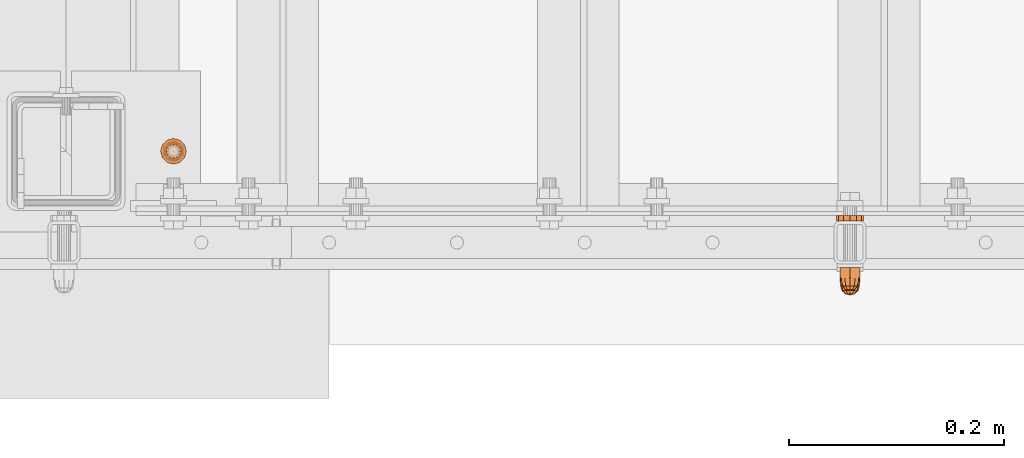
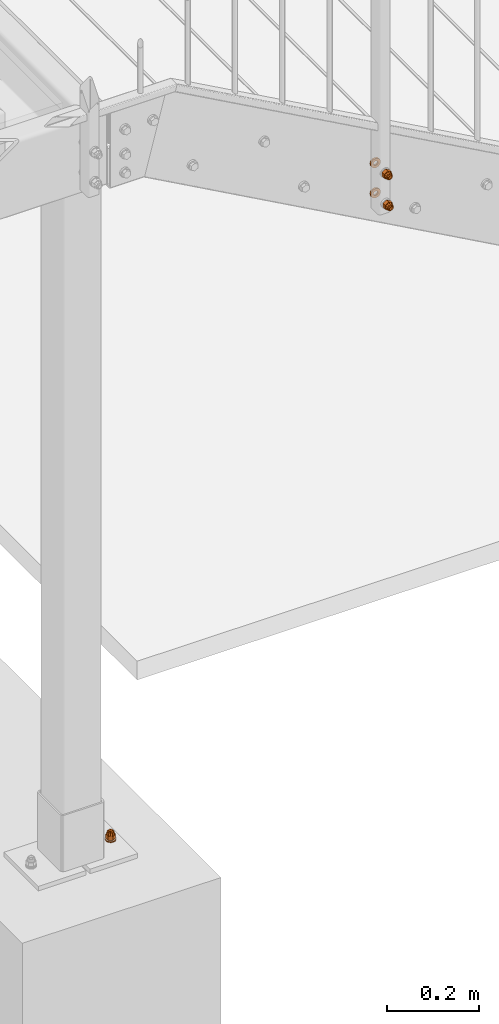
# One storey, part 103 of 116: 6 proxies.
"""IFC2X3 building model written with IfcOpenShell, lengths in millimetres."""

import ifcopenshell
import ifcopenshell.guid

model = None  # the IFC model being written
_history = None  # IfcOwnerHistory: only IFC2X3 demands one
_inside = {}  # id of a spatial element -> (the spatial element, [elements in it])
_under = {}  # id of a project, library or spatial element -> (it, [spatial elements below it])
_declared = {}  # id of a project -> (the project, [libraries it declares])
_typed = {}  # id of a type object -> (the type object, [elements of that type])
_made_of = {}  # id of a material, layer set ... -> (it, [elements and type objects made of it])


def new_model(schema):
    """Start an empty IFC model of exactly this schema.

    Asked for "IFC4X3", IfcOpenShell would pick the latest addendum, in which some entities
    have other attributes; the version numbers below select the first issue.
    IFC2X3 requires an IfcOwnerHistory on every rooted entity: one is made here for all.
    """
    global model, _history
    if schema == "IFC4X3":
        model = ifcopenshell.file(schema_version=(4, 3, 0, 0))
    else:
        model = ifcopenshell.file(schema=schema)
    _inside.clear()
    _under.clear()
    _declared.clear()
    _typed.clear()
    _made_of.clear()
    _history = None
    if model.schema == "IFC2X3":
        org = make("IfcOrganization", Name="unknown")
        user = make(
            "IfcPersonAndOrganization",
            ThePerson=make("IfcPerson", FamilyName="unknown"),
            TheOrganization=org,
        )
        app = make(
            "IfcApplication",
            ApplicationDeveloper=org,
            Version="unknown",
            ApplicationFullName="unknown",
            ApplicationIdentifier="unknown",
        )
        _history = make(
            "IfcOwnerHistory",
            OwningUser=user,
            OwningApplication=app,
            ChangeAction="ADDED",
            CreationDate=0,
        )
    return model


def make(cls, **values):
    """One entity of the class cls with the attributes given. An attribute that is None is left unset."""
    return model.create_entity(
        cls, **{name: value for name, value in values.items() if value is not None}
    )


def entity(cls, *values):
    """Any entity or typed value of the class cls, its attributes in the order of the schema. None: left unset."""
    e = model.create_entity(cls)
    for i, value in enumerate(values):
        if value is not None:
            e[i] = value
    return e


def rooted(cls, **values):
    """An entity with a GlobalId (a new one), such as an element, a storey or a relation."""
    return make(cls, GlobalId=ifcopenshell.guid.new(), OwnerHistory=_history, **values)


def si_unit(unit_type, name, prefix=None):
    """IfcSIUnit, for example si_unit("LENGTHUNIT", "METRE", prefix="MILLI")."""
    return make("IfcSIUnit", UnitType=unit_type, Prefix=prefix, Name=name)


def converted_unit(unit_type, name, factor, base, dimensions=None, offset=None):
    """IfcConversionBasedUnit, such as the inch: factor (a typed value) times the base unit."""
    return make(
        "IfcConversionBasedUnit"
        if offset is None
        else "IfcConversionBasedUnitWithOffset",
        ConversionOffset=offset,
        Dimensions=None
        if dimensions is None
        else entity("IfcDimensionalExponents", *dimensions),
        UnitType=unit_type,
        Name=name,
        ConversionFactor=make(
            "IfcMeasureWithUnit", ValueComponent=factor, UnitComponent=base
        ),
    )


def assignment(units):
    """IfcUnitAssignment: the units of a project."""
    return None if units is None else make("IfcUnitAssignment", Units=units)


def point(xyz):
    """IfcCartesianPoint."""
    return None if xyz is None else make("IfcCartesianPoint", Coordinates=xyz)


def direction(xyz):
    """IfcDirection."""
    return None if xyz is None else make("IfcDirection", DirectionRatios=xyz)


def frame(location, z_axis=None, x_axis=None):
    """IfcAxis2Placement3D, a coordinate frame: its origin and axes. An axis left out is left unset."""
    return make(
        "IfcAxis2Placement3D",
        Location=point(location),
        Axis=direction(z_axis),
        RefDirection=direction(x_axis),
    )


def origin_with_axes():
    """The frame at (0, 0, 0) with the z axis (0, 0, 1) and the x axis (1, 0, 0) written out."""
    return frame((0.0, 0.0, 0.0), z_axis=(0.0, 0.0, 1.0), x_axis=(1.0, 0.0, 0.0))


def place(relative_to, where):
    """IfcLocalPlacement: puts the frame where relative to a parent placement (None: the world)."""
    return make(
        "IfcLocalPlacement", PlacementRelTo=relative_to, RelativePlacement=where
    )


def context(
    kind, dimensions, precision=None, world=None, true_north=None, identifier=None
):
    """IfcGeometricRepresentationContext, for example the 3D "Model" context."""
    return make(
        "IfcGeometricRepresentationContext",
        ContextIdentifier=identifier,
        ContextType=kind,
        CoordinateSpaceDimension=dimensions,
        Precision=precision,
        WorldCoordinateSystem=world,
        TrueNorth=true_north,
    )


def project(units=None, contexts=None):
    """IfcProject with its units and contexts."""
    return rooted(
        "IfcProject",
        Name="project",
        RepresentationContexts=contexts,
        UnitsInContext=assignment(units),
    )


def spatial(cls, under=None, at=None, **own):
    """A site, building, storey or space (cls), placed at a placement, below another one or the project."""
    s = rooted(cls, ObjectPlacement=at, **own)
    if under is not None:
        _under.setdefault(under.id(), (under, []))[1].append(s)
    return s


def faces_of(points, faces, orient=None, outer=None):
    """IfcFace entities. A face is a list of loops; a loop is a list of indices into points, from 0.

    orient and outer hold one flag for each loop. By default every Orientation is true, the
    first loop of a face is its IfcFaceOuterBound and the others are IfcFaceBound.
    """
    made = []
    for i, loops in enumerate(faces):
        bounds = []
        for j, loop in enumerate(loops):
            is_outer = j == 0 if outer is None else outer[i][j]
            bounds.append(
                make(
                    "IfcFaceOuterBound" if is_outer else "IfcFaceBound",
                    Bound=make("IfcPolyLoop", Polygon=[points[k] for k in loop]),
                    Orientation=True if orient is None else orient[i][j],
                )
            )
        made.append(make("IfcFace", Bounds=bounds))
    return made


def faceted_brep(points, faces, orient=None, outer=None, voids=None):
    """IfcFacetedBrep: a solid bounded by flat faces; with voids (closed shells), ...WithVoids."""
    shared = [point(p) for p in points]
    hull = make("IfcClosedShell", CfsFaces=faces_of(shared, faces, orient, outer))
    if voids is None:
        return make("IfcFacetedBrep", Outer=hull)
    return make(
        "IfcFacetedBrepWithVoids",
        Outer=hull,
        Voids=[
            make(cls, CfsFaces=faces_of(shared, fs, o, b)) for cls, fs, o, b in voids
        ],
    )


def shape(context_of_items, identifier, shape_type, items):
    """IfcShapeRepresentation: the items that make up one representation, for example the "Body"."""
    return make(
        "IfcShapeRepresentation",
        ContextOfItems=context_of_items,
        RepresentationIdentifier=identifier,
        RepresentationType=shape_type,
        Items=items,
    )


def material(Name=None, Category=None):
    """IfcMaterial."""
    return make("IfcMaterial", Name=Name, Category=Category)


def made_of(thing, what):
    """Note that an element or type object is made of a material, layer set ...; save() writes the relation."""
    if what is not None:
        _made_of.setdefault(what.id(), (what, []))[1].append(thing)
    return thing


def element(
    cls,
    number,
    at=None,
    inside=None,
    cuts=None,
    type_object=None,
    material=None,
    context=None,
    identifier="Body",
    shape_type=None,
    held_by="IfcProductDefinitionShape",
    body=None,
    shapes=None,
    **own,
):
    """One element of the class cls, such as IfcWall. Its Tag is "e" and its number.

    at: its placement. inside: the storey or other place that contains it. cuts: it is an
    opening in that element (IfcRelVoidsElement). A single representation is given by context,
    identifier, shape_type and body (its items); several are given by shapes. held_by: the class
    of the entity that holds the representations. save() writes the other relations.
    """
    e = rooted(cls, Tag="e%d" % number, ObjectPlacement=at, **own)
    if body is not None:
        shapes = [shape(context, identifier, shape_type, body)]
    if shapes is not None:
        e.Representation = make(held_by, Representations=shapes)
    if inside is not None:
        _inside.setdefault(inside.id(), (inside, []))[1].append(e)
    if cuts is not None:
        rooted(
            "IfcRelVoidsElement", RelatingBuildingElement=cuts, RelatedOpeningElement=e
        )
    if type_object is not None:
        _typed.setdefault(type_object.id(), (type_object, []))[1].append(e)
    return made_of(e, material)


def aggregate(whole, parts):
    """IfcRelAggregates: a whole, such as a stair, and the parts it consists of."""
    return rooted("IfcRelAggregates", RelatingObject=whole, RelatedObjects=parts)


def save(model, path):
    """Write the relations noted so far, then the file.

    IfcRelAggregates (storeys below a building ...), IfcRelContainedInSpatialStructure (elements
    in a storey), IfcRelDefinesByType, IfcRelAssociatesMaterial and IfcRelDeclares: one each for
    every whole, place, type object, material and project.
    """
    for whole, parts in _under.values():
        aggregate(whole, parts)
    for where, things in _inside.values():
        rooted(
            "IfcRelContainedInSpatialStructure",
            RelatedElements=things,
            RelatingStructure=where,
        )
    for kind, things in _typed.values():
        rooted("IfcRelDefinesByType", RelatedObjects=things, RelatingType=kind)
    for what, things in _made_of.values():
        rooted("IfcRelAssociatesMaterial", RelatedObjects=things, RelatingMaterial=what)
    for by, libraries in _declared.values():
        rooted("IfcRelDeclares", RelatingContext=by, RelatedDefinitions=libraries)
    model.write(path)


model = new_model("IFC2X3")

# Units and contexts
model_context = context("Model", 3, precision=1e-09, world=origin_with_axes())
ifc_project = project(units=[si_unit("LENGTHUNIT", "METRE", prefix="MILLI"), si_unit("AREAUNIT", "SQUARE_METRE"), si_unit("VOLUMEUNIT", "CUBIC_METRE"), converted_unit("PLANEANGLEUNIT", "DEGREE", entity("IfcPlaneAngleMeasure", 0.01745329), si_unit("PLANEANGLEUNIT", "RADIAN"), dimensions=[0, 0, 0, 0, 0, 0, 0])], contexts=[model_context])

# Site, building, storey
site_placement = place(None, origin_with_axes())
site = spatial("IfcSite", under=ifc_project, at=site_placement, Name="Site", CompositionType="ELEMENT")
building_placement = place(site_placement, origin_with_axes())
building = spatial("IfcBuilding", under=site, at=building_placement, Name="Struktur 1", CompositionType="ELEMENT")
storey_placement = place(building_placement, origin_with_axes())
storey = spatial("IfcBuildingStorey", under=building, at=storey_placement, Name="Default Storey", CompositionType="ELEMENT", Elevation=0.0)

# Proxies
ifc_material = material(Name="Kein")
proxy_1_placement = place(None, origin_with_axes())
element("IfcBuildingElementProxy", 1, at=proxy_1_placement, inside=storey, material=ifc_material, ObjectType="-", context=model_context, shape_type="Brep", body=[
    faceted_brep([(58891.049134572, 9020.359883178, -458.0), (58891.049134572, 9010.359883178, -458.0), (58891.852982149, 9010.359883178, -461.0), (58891.852982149, 9020.359883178, -461.0), (58894.049134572, 9010.359883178, -463.196152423), (58894.049134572, 9020.359883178, -463.196152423), (58891.852982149, 9020.359883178, -455.0), (58891.852982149, 9010.359883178, -455.0), (58887.569265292, 9020.359883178, -452.526794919), (58897.049134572, 9020.359883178, -447.053589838), (58906.529003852, 9020.359883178, -452.526794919), (58906.529003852, 9020.359883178, -463.473205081), (58897.049134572, 9020.359883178, -468.946410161), (58887.569265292, 9020.359883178, -463.473205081), (58894.049134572, 9020.359883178, -452.803847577), (58897.049134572, 9020.359883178, -464.0), (58900.049134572, 9020.359883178, -463.196152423), (58902.245286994, 9020.359883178, -461.0), (58903.049134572, 9020.359883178, -458.0), (58902.245286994, 9020.359883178, -455.0), (58900.049134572, 9020.359883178, -452.803847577), (58897.049134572, 9020.359883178, -452.0), (58897.049134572, 9010.359883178, -447.053589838), (58887.569265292, 9010.359883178, -452.526794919), (58887.569265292, 9010.359883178, -463.473205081), (58897.049134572, 9010.359883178, -468.946410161), (58906.529003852, 9010.359883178, -463.473205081), (58906.529003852, 9010.359883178, -452.526794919), (58894.049134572, 9010.359883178, -452.803847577), (58897.049134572, 9010.359883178, -452.0), (58900.049134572, 9010.359883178, -452.803847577), (58902.245286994, 9010.359883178, -455.0), (58903.049134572, 9010.359883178, -458.0), (58902.245286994, 9010.359883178, -461.0), (58900.049134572, 9010.359883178, -463.196152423), (58897.049134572, 9010.359883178, -464.0)], [[[0, 1, 2, 3]], [[3, 2, 4, 5]], [[1, 0, 6, 7]], [[8, 9, 10, 11, 12, 13], [14, 6, 0, 3, 5, 15, 16, 17, 18, 19, 20, 21]], [[22, 23, 24, 25, 26, 27], [1, 7, 28, 29, 30, 31, 32, 33, 34, 35, 4, 2]], [[7, 6, 14, 28]], [[24, 23, 8, 13]], [[5, 4, 35, 15]], [[13, 12, 25, 24]], [[28, 14, 21, 29]], [[23, 22, 9, 8]], [[15, 35, 34, 16]], [[12, 11, 26, 25]], [[29, 21, 20, 30]], [[22, 27, 10, 9]], [[16, 34, 33, 17]], [[27, 26, 11, 10]], [[30, 20, 19, 31]], [[17, 33, 32, 18]], [[31, 19, 18, 32]]]),
    faceted_brep([(58897.049134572, 9010.359883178, -449.0), (58897.049134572, 9007.359883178, -449.0), (58901.549134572, 9007.359883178, -450.205771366), (58901.549134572, 9010.359883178, -450.205771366), (58892.549134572, 9010.359883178, -450.205771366), (58892.549134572, 9007.359883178, -450.205771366), (58889.254905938, 9007.359883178, -462.5), (58892.549134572, 9007.359883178, -465.794228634), (58897.049134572, 9007.359883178, -467.0), (58901.549134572, 9007.359883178, -465.794228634), (58904.843363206, 9007.359883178, -462.5), (58906.049134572, 9007.359883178, -458.0), (58904.843363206, 9007.359883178, -453.5), (58889.254905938, 9007.359883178, -453.5), (58888.049134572, 9007.359883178, -458.0), (58904.843363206, 9010.359883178, -462.5), (58901.549134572, 9010.359883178, -465.794228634), (58897.049134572, 9010.359883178, -467.0), (58892.549134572, 9010.359883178, -465.794228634), (58889.254905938, 9010.359883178, -462.5), (58888.049134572, 9010.359883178, -458.0), (58889.254905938, 9010.359883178, -453.5), (58904.843363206, 9010.359883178, -453.5), (58906.049134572, 9010.359883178, -458.0)], [[[0, 1, 2, 3]], [[1, 0, 4, 5]], [[6, 7, 8, 9, 10, 11, 12, 2, 1, 5, 13, 14]], [[15, 16, 17, 18, 19, 20, 21, 4, 0, 3, 22, 23]], [[3, 2, 12, 22]], [[5, 4, 21, 13]], [[22, 12, 11, 23]], [[13, 21, 20, 14]], [[7, 18, 17, 8]], [[19, 6, 14, 20]], [[18, 7, 6, 19]], [[23, 11, 10, 15]], [[8, 17, 16, 9]], [[15, 10, 9, 16]]]),
    faceted_brep([(58889.254905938, 9007.359883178, -453.5), (58890.299134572, 9002.859883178, -454.102885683), (58893.152020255, 9002.859883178, -451.25), (58892.549134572, 9007.359883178, -450.205771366), (58904.843363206, 9007.359883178, -462.5), (58901.549134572, 9007.359883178, -465.794228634), (58897.049134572, 9007.359883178, -467.0), (58892.549134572, 9007.359883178, -465.794228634), (58889.254905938, 9007.359883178, -462.5), (58888.049134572, 9007.359883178, -458.0), (58897.049134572, 9007.359883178, -449.0), (58901.549134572, 9007.359883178, -450.205771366), (58904.843363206, 9007.359883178, -453.5), (58906.049134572, 9007.359883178, -458.0), (58897.049134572, 9002.859883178, -450.205771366), (58889.254905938, 9002.859883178, -458.0), (58892.549134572, 8999.565654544, -458.0), (58893.152020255, 8999.565654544, -455.75), (58900.946248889, 9002.859883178, -451.25), (58894.799134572, 8999.565654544, -454.102885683), (58890.299134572, 9002.859883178, -461.897114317), (58893.152020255, 8999.565654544, -460.25), (58897.049134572, 8999.565654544, -453.5), (58897.049134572, 8998.359883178, -458.0), (58893.152020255, 9002.859883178, -464.75), (58894.799134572, 8999.565654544, -461.897114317), (58897.049134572, 9002.859883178, -465.794228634), (58903.799134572, 9002.859883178, -454.102885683), (58899.299134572, 8999.565654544, -454.102885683), (58897.049134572, 8999.565654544, -462.5), (58900.946248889, 9002.859883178, -464.75), (58899.299134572, 8999.565654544, -461.897114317), (58904.843363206, 9002.859883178, -458.0), (58900.946248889, 8999.565654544, -455.75), (58903.799134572, 9002.859883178, -461.897114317), (58900.946248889, 8999.565654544, -460.25), (58901.549134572, 8999.565654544, -458.0)], [[[0, 1, 2, 3]], [[4, 5, 6, 7, 8, 9, 0, 3, 10, 11, 12, 13]], [[3, 2, 14, 10]], [[15, 16, 17, 1]], [[1, 0, 9, 15]], [[10, 14, 18, 11]], [[1, 17, 19, 2]], [[16, 15, 20, 21]], [[2, 19, 22, 14]], [[23, 17, 16]], [[24, 25, 21, 20]], [[23, 16, 21]], [[24, 7, 6, 26]], [[20, 8, 7, 24]], [[15, 9, 8, 20]], [[11, 18, 27, 12]], [[14, 22, 28, 18]], [[23, 19, 17]], [[26, 29, 25, 24]], [[23, 21, 25]], [[23, 22, 19]], [[26, 6, 5, 30]], [[29, 26, 30, 31]], [[23, 25, 29]], [[12, 27, 32, 13]], [[18, 28, 33, 27]], [[23, 28, 22]], [[23, 29, 31]], [[23, 33, 28]], [[30, 5, 4, 34]], [[31, 30, 34, 35]], [[23, 31, 35]], [[13, 32, 34, 4]], [[27, 33, 36, 32]], [[23, 36, 33]], [[23, 35, 36]], [[35, 34, 32, 36]]]),
])
proxy_2_placement = place(None, origin_with_axes())
element("IfcBuildingElementProxy", 2, at=proxy_2_placement, inside=storey, material=ifc_material, ObjectType="-", context=model_context, shape_type="Brep", body=[
    faceted_brep([(58891.049134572, 9024.359883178, -378.0), (58891.049134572, 9014.359883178, -378.0), (58891.852982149, 9014.359883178, -381.0), (58891.852982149, 9024.359883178, -381.0), (58894.049134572, 9014.359883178, -383.196152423), (58894.049134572, 9024.359883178, -383.196152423), (58891.852982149, 9024.359883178, -375.0), (58891.852982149, 9014.359883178, -375.0), (58887.569265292, 9024.359883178, -372.526794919), (58897.049134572, 9024.359883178, -367.053589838), (58906.529003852, 9024.359883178, -372.526794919), (58906.529003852, 9024.359883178, -383.473205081), (58897.049134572, 9024.359883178, -388.946410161), (58887.569265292, 9024.359883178, -383.473205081), (58894.049134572, 9024.359883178, -372.803847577), (58897.049134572, 9024.359883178, -384.0), (58900.049134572, 9024.359883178, -383.196152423), (58902.245286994, 9024.359883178, -381.0), (58903.049134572, 9024.359883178, -378.0), (58902.245286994, 9024.359883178, -375.0), (58900.049134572, 9024.359883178, -372.803847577), (58897.049134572, 9024.359883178, -372.0), (58897.049134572, 9014.359883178, -367.053589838), (58887.569265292, 9014.359883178, -372.526794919), (58887.569265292, 9014.359883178, -383.473205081), (58897.049134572, 9014.359883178, -388.946410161), (58906.529003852, 9014.359883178, -383.473205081), (58906.529003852, 9014.359883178, -372.526794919), (58894.049134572, 9014.359883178, -372.803847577), (58897.049134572, 9014.359883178, -372.0), (58900.049134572, 9014.359883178, -372.803847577), (58902.245286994, 9014.359883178, -375.0), (58903.049134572, 9014.359883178, -378.0), (58902.245286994, 9014.359883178, -381.0), (58900.049134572, 9014.359883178, -383.196152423), (58897.049134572, 9014.359883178, -384.0)], [[[0, 1, 2, 3]], [[3, 2, 4, 5]], [[1, 0, 6, 7]], [[8, 9, 10, 11, 12, 13], [14, 6, 0, 3, 5, 15, 16, 17, 18, 19, 20, 21]], [[22, 23, 24, 25, 26, 27], [1, 7, 28, 29, 30, 31, 32, 33, 34, 35, 4, 2]], [[7, 6, 14, 28]], [[24, 23, 8, 13]], [[5, 4, 35, 15]], [[13, 12, 25, 24]], [[28, 14, 21, 29]], [[23, 22, 9, 8]], [[15, 35, 34, 16]], [[12, 11, 26, 25]], [[29, 21, 20, 30]], [[22, 27, 10, 9]], [[16, 34, 33, 17]], [[27, 26, 11, 10]], [[30, 20, 19, 31]], [[17, 33, 32, 18]], [[31, 19, 18, 32]]]),
    faceted_brep([(58897.049134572, 9014.359883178, -369.0), (58897.049134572, 9011.359883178, -369.0), (58901.549134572, 9011.359883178, -370.205771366), (58901.549134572, 9014.359883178, -370.205771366), (58892.549134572, 9014.359883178, -370.205771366), (58892.549134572, 9011.359883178, -370.205771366), (58889.254905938, 9011.359883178, -382.5), (58892.549134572, 9011.359883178, -385.794228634), (58897.049134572, 9011.359883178, -387.0), (58901.549134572, 9011.359883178, -385.794228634), (58904.843363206, 9011.359883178, -382.5), (58906.049134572, 9011.359883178, -378.0), (58904.843363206, 9011.359883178, -373.5), (58889.254905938, 9011.359883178, -373.5), (58888.049134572, 9011.359883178, -378.0), (58904.843363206, 9014.359883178, -382.5), (58901.549134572, 9014.359883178, -385.794228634), (58897.049134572, 9014.359883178, -387.0), (58892.549134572, 9014.359883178, -385.794228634), (58889.254905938, 9014.359883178, -382.5), (58888.049134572, 9014.359883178, -378.0), (58889.254905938, 9014.359883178, -373.5), (58904.843363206, 9014.359883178, -373.5), (58906.049134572, 9014.359883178, -378.0)], [[[0, 1, 2, 3]], [[1, 0, 4, 5]], [[6, 7, 8, 9, 10, 11, 12, 2, 1, 5, 13, 14]], [[15, 16, 17, 18, 19, 20, 21, 4, 0, 3, 22, 23]], [[3, 2, 12, 22]], [[5, 4, 21, 13]], [[22, 12, 11, 23]], [[13, 21, 20, 14]], [[7, 18, 17, 8]], [[19, 6, 14, 20]], [[18, 7, 6, 19]], [[23, 11, 10, 15]], [[8, 17, 16, 9]], [[15, 10, 9, 16]]]),
    faceted_brep([(58889.254905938, 9011.359883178, -373.5), (58890.299134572, 9006.859883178, -374.102885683), (58893.152020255, 9006.859883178, -371.25), (58892.549134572, 9011.359883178, -370.205771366), (58904.843363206, 9011.359883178, -382.5), (58901.549134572, 9011.359883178, -385.794228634), (58897.049134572, 9011.359883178, -387.0), (58892.549134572, 9011.359883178, -385.794228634), (58889.254905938, 9011.359883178, -382.5), (58888.049134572, 9011.359883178, -378.0), (58897.049134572, 9011.359883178, -369.0), (58901.549134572, 9011.359883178, -370.205771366), (58904.843363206, 9011.359883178, -373.5), (58906.049134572, 9011.359883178, -378.0), (58897.049134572, 9006.859883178, -370.205771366), (58889.254905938, 9006.859883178, -378.0), (58892.549134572, 9003.565654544, -378.0), (58893.152020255, 9003.565654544, -375.75), (58900.946248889, 9006.859883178, -371.25), (58894.799134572, 9003.565654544, -374.102885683), (58890.299134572, 9006.859883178, -381.897114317), (58893.152020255, 9003.565654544, -380.25), (58897.049134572, 9003.565654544, -373.5), (58897.049134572, 9002.359883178, -378.0), (58893.152020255, 9006.859883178, -384.75), (58894.799134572, 9003.565654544, -381.897114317), (58897.049134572, 9006.859883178, -385.794228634), (58903.799134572, 9006.859883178, -374.102885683), (58899.299134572, 9003.565654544, -374.102885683), (58897.049134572, 9003.565654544, -382.5), (58900.946248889, 9006.859883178, -384.75), (58899.299134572, 9003.565654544, -381.897114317), (58904.843363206, 9006.859883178, -378.0), (58900.946248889, 9003.565654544, -375.75), (58903.799134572, 9006.859883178, -381.897114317), (58900.946248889, 9003.565654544, -380.25), (58901.549134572, 9003.565654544, -378.0)], [[[0, 1, 2, 3]], [[4, 5, 6, 7, 8, 9, 0, 3, 10, 11, 12, 13]], [[3, 2, 14, 10]], [[15, 16, 17, 1]], [[1, 0, 9, 15]], [[10, 14, 18, 11]], [[1, 17, 19, 2]], [[16, 15, 20, 21]], [[2, 19, 22, 14]], [[23, 17, 16]], [[24, 25, 21, 20]], [[23, 16, 21]], [[24, 7, 6, 26]], [[20, 8, 7, 24]], [[15, 9, 8, 20]], [[11, 18, 27, 12]], [[14, 22, 28, 18]], [[23, 19, 17]], [[26, 29, 25, 24]], [[23, 21, 25]], [[23, 22, 19]], [[26, 6, 5, 30]], [[29, 26, 30, 31]], [[23, 25, 29]], [[12, 27, 32, 13]], [[18, 28, 33, 27]], [[23, 28, 22]], [[23, 29, 31]], [[23, 33, 28]], [[30, 5, 4, 34]], [[31, 30, 34, 35]], [[23, 31, 35]], [[13, 32, 34, 4]], [[27, 33, 36, 32]], [[23, 36, 33]], [[23, 35, 36]], [[35, 34, 32, 36]]]),
])
proxy_3_placement = place(None, origin_with_axes())
element("IfcBuildingElementProxy", 3, at=proxy_3_placement, inside=storey, material=ifc_material, ObjectType="-", context=model_context, shape_type="Brep", body=[
    faceted_brep([(58886.223817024, 9067.359883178, -464.25), (58890.799134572, 9067.359883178, -468.825317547), (58897.049134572, 9067.359883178, -470.5), (58903.299134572, 9067.359883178, -468.825317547), (58907.874452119, 9067.359883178, -464.25), (58909.549134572, 9067.359883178, -458.0), (58907.874452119, 9067.359883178, -451.75), (58903.299134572, 9067.359883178, -447.174682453), (58897.049134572, 9067.359883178, -445.5), (58890.799134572, 9067.359883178, -447.174682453), (58886.223817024, 9067.359883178, -451.75), (58884.549134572, 9067.359883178, -458.0), (58897.049134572, 9067.359883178, -464.0), (58894.049134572, 9067.359883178, -463.196152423), (58891.852982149, 9067.359883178, -461.0), (58891.049134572, 9067.359883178, -458.0), (58891.852982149, 9067.359883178, -455.0), (58894.049134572, 9067.359883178, -452.803847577), (58897.049134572, 9067.359883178, -452.0), (58900.049134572, 9067.359883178, -452.803847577), (58902.245286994, 9067.359883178, -455.0), (58903.049134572, 9067.359883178, -458.0), (58902.245286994, 9067.359883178, -461.0), (58900.049134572, 9067.359883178, -463.196152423), (58886.223817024, 9072.359883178, -464.25), (58890.799134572, 9072.359883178, -468.825317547), (58884.549134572, 9072.359883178, -458.0), (58886.223817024, 9072.359883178, -451.75), (58890.799134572, 9072.359883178, -447.174682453), (58897.049134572, 9072.359883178, -445.5), (58903.299134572, 9072.359883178, -447.174682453), (58907.874452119, 9072.359883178, -451.75), (58909.549134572, 9072.359883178, -458.0), (58907.874452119, 9072.359883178, -464.25), (58903.299134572, 9072.359883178, -468.825317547), (58897.049134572, 9072.359883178, -470.5), (58891.852982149, 9072.359883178, -455.0), (58891.049134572, 9072.359883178, -458.0), (58891.852982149, 9072.359883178, -461.0), (58894.049134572, 9072.359883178, -463.196152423), (58897.049134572, 9072.359883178, -464.0), (58900.049134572, 9072.359883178, -463.196152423), (58902.245286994, 9072.359883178, -461.0), (58903.049134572, 9072.359883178, -458.0), (58902.245286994, 9072.359883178, -455.0), (58900.049134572, 9072.359883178, -452.803847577), (58897.049134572, 9072.359883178, -452.0), (58894.049134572, 9072.359883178, -452.803847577)], [[[0, 1, 2, 3, 4, 5, 6, 7, 8, 9, 10, 11], [12, 13, 14, 15, 16, 17, 18, 19, 20, 21, 22, 23]], [[0, 24, 25, 1]], [[24, 26, 27, 28, 29, 30, 31, 32, 33, 34, 35, 25], [36, 37, 38, 39, 40, 41, 42, 43, 44, 45, 46, 47]], [[38, 14, 13, 39]], [[24, 0, 11, 26]], [[14, 38, 37, 15]], [[39, 13, 12, 40]], [[1, 25, 35, 2]], [[26, 11, 10, 27]], [[15, 37, 36, 16]], [[40, 12, 23, 41]], [[2, 35, 34, 3]], [[27, 10, 9, 28]], [[16, 36, 47, 17]], [[22, 42, 41, 23]], [[3, 34, 33, 4]], [[42, 22, 21, 43]], [[28, 9, 8, 29]], [[17, 47, 46, 18]], [[20, 44, 43, 21]], [[4, 33, 32, 5]], [[45, 19, 18, 46]], [[44, 20, 19, 45]], [[29, 8, 7, 30]], [[5, 32, 31, 6]], [[30, 7, 6, 31]]]),
])
proxy_4_placement = place(None, origin_with_axes())
element("IfcBuildingElementProxy", 4, at=proxy_4_placement, inside=storey, material=ifc_material, ObjectType="-", context=model_context, shape_type="Brep", body=[
    faceted_brep([(58886.223817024, 9067.359883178, -384.25), (58890.799134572, 9067.359883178, -388.825317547), (58897.049134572, 9067.359883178, -390.5), (58903.299134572, 9067.359883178, -388.825317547), (58907.874452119, 9067.359883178, -384.25), (58909.549134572, 9067.359883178, -378.0), (58907.874452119, 9067.359883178, -371.75), (58903.299134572, 9067.359883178, -367.174682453), (58897.049134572, 9067.359883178, -365.5), (58890.799134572, 9067.359883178, -367.174682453), (58886.223817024, 9067.359883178, -371.75), (58884.549134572, 9067.359883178, -378.0), (58897.049134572, 9067.359883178, -384.0), (58894.049134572, 9067.359883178, -383.196152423), (58891.852982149, 9067.359883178, -381.0), (58891.049134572, 9067.359883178, -378.0), (58891.852982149, 9067.359883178, -375.0), (58894.049134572, 9067.359883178, -372.803847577), (58897.049134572, 9067.359883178, -372.0), (58900.049134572, 9067.359883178, -372.803847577), (58902.245286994, 9067.359883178, -375.0), (58903.049134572, 9067.359883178, -378.0), (58902.245286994, 9067.359883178, -381.0), (58900.049134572, 9067.359883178, -383.196152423), (58886.223817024, 9072.359883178, -384.25), (58890.799134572, 9072.359883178, -388.825317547), (58884.549134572, 9072.359883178, -378.0), (58886.223817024, 9072.359883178, -371.75), (58890.799134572, 9072.359883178, -367.174682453), (58897.049134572, 9072.359883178, -365.5), (58903.299134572, 9072.359883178, -367.174682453), (58907.874452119, 9072.359883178, -371.75), (58909.549134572, 9072.359883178, -378.0), (58907.874452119, 9072.359883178, -384.25), (58903.299134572, 9072.359883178, -388.825317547), (58897.049134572, 9072.359883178, -390.5), (58891.852982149, 9072.359883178, -375.0), (58891.049134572, 9072.359883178, -378.0), (58891.852982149, 9072.359883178, -381.0), (58894.049134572, 9072.359883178, -383.196152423), (58897.049134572, 9072.359883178, -384.0), (58900.049134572, 9072.359883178, -383.196152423), (58902.245286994, 9072.359883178, -381.0), (58903.049134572, 9072.359883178, -378.0), (58902.245286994, 9072.359883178, -375.0), (58900.049134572, 9072.359883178, -372.803847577), (58897.049134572, 9072.359883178, -372.0), (58894.049134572, 9072.359883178, -372.803847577)], [[[0, 1, 2, 3, 4, 5, 6, 7, 8, 9, 10, 11], [12, 13, 14, 15, 16, 17, 18, 19, 20, 21, 22, 23]], [[0, 24, 25, 1]], [[24, 26, 27, 28, 29, 30, 31, 32, 33, 34, 35, 25], [36, 37, 38, 39, 40, 41, 42, 43, 44, 45, 46, 47]], [[38, 14, 13, 39]], [[24, 0, 11, 26]], [[14, 38, 37, 15]], [[39, 13, 12, 40]], [[1, 25, 35, 2]], [[26, 11, 10, 27]], [[15, 37, 36, 16]], [[40, 12, 23, 41]], [[2, 35, 34, 3]], [[27, 10, 9, 28]], [[16, 36, 47, 17]], [[22, 42, 41, 23]], [[3, 34, 33, 4]], [[42, 22, 21, 43]], [[28, 9, 8, 29]], [[17, 47, 46, 18]], [[20, 44, 43, 21]], [[4, 33, 32, 5]], [[45, 19, 18, 46]], [[44, 20, 19, 45]], [[29, 8, 7, 30]], [[5, 32, 31, 6]], [[30, 7, 6, 31]]]),
])
proxy_5_placement = place(None, origin_with_axes())
element("IfcBuildingElementProxy", 5, at=proxy_5_placement, inside=storey, material=ifc_material, ObjectType="-", context=model_context, shape_type="Brep", body=[
    faceted_brep([(58256.656829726, 9138.358883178, -1994.5), (58256.656829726, 9138.358883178, -1997.0), (58255.049134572, 9132.358883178, -1997.0), (58255.049134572, 9132.358883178, -1994.5), (58261.049134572, 9142.751188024, -1997.0), (58267.049134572, 9144.358883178, -1997.0), (58273.049134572, 9142.751188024, -1997.0), (58277.441439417, 9138.358883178, -1997.0), (58279.049134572, 9132.358883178, -1997.0), (58277.441439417, 9126.358883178, -1997.0), (58273.049134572, 9121.966578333, -1997.0), (58267.049134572, 9120.358883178, -1997.0), (58261.049134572, 9121.966578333, -1997.0), (58256.656829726, 9126.358883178, -1997.0), (58263.799134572, 9137.988048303, -1997.0), (58261.419969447, 9135.608883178, -1997.0), (58260.549134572, 9132.358883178, -1997.0), (58261.419969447, 9129.108883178, -1997.0), (58263.799134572, 9126.729718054, -1997.0), (58267.049134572, 9125.858883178, -1997.0), (58270.299134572, 9126.729718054, -1997.0), (58272.678299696, 9129.108883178, -1997.0), (58273.549134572, 9132.358883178, -1997.0), (58272.678299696, 9135.608883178, -1997.0), (58270.299134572, 9137.988048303, -1997.0), (58267.049134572, 9138.858883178, -1997.0), (58260.549134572, 9132.358883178, -1994.5), (58261.419969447, 9135.608883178, -1994.5), (58261.049134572, 9142.751188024, -1994.5), (58256.656829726, 9126.358883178, -1994.5), (58261.049134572, 9121.966578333, -1994.5), (58267.049134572, 9120.358883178, -1994.5), (58273.049134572, 9121.966578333, -1994.5), (58277.441439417, 9126.358883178, -1994.5), (58279.049134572, 9132.358883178, -1994.5), (58277.441439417, 9138.358883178, -1994.5), (58273.049134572, 9142.751188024, -1994.5), (58267.049134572, 9144.358883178, -1994.5), (58263.799134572, 9137.988048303, -1994.5), (58267.049134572, 9138.858883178, -1994.5), (58270.299134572, 9137.988048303, -1994.5), (58272.678299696, 9135.608883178, -1994.5), (58273.549134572, 9132.358883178, -1994.5), (58272.678299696, 9129.108883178, -1994.5), (58270.299134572, 9126.729718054, -1994.5), (58267.049134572, 9125.858883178, -1994.5), (58263.799134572, 9126.729718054, -1994.5), (58261.419969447, 9129.108883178, -1994.5)], [[[0, 1, 2, 3]], [[1, 4, 5, 6, 7, 8, 9, 10, 11, 12, 13, 2], [14, 15, 16, 17, 18, 19, 20, 21, 22, 23, 24, 25]], [[26, 16, 15, 27]], [[28, 0, 3, 29, 30, 31, 32, 33, 34, 35, 36, 37], [26, 27, 38, 39, 40, 41, 42, 43, 44, 45, 46, 47]], [[1, 0, 28, 4]], [[16, 26, 47, 17]], [[3, 2, 13, 29]], [[27, 15, 14, 38]], [[4, 28, 37, 5]], [[17, 47, 46, 18]], [[29, 13, 12, 30]], [[38, 14, 25, 39]], [[18, 46, 45, 19]], [[5, 37, 36, 6]], [[39, 25, 24, 40]], [[30, 12, 11, 31]], [[19, 45, 44, 20]], [[6, 36, 35, 7]], [[40, 24, 23, 41]], [[31, 11, 10, 32]], [[20, 44, 43, 21]], [[7, 35, 34, 8]], [[41, 23, 22, 42]], [[32, 10, 9, 33]], [[21, 43, 42, 22]], [[8, 34, 33, 9]]]),
])
proxy_6_placement = place(None, origin_with_axes())
element("IfcBuildingElementProxy", 6, at=proxy_6_placement, inside=storey, material=ifc_material, ObjectType="-", context=model_context, shape_type="Brep", body=[
    faceted_brep([(58273.049134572, 9132.358883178, -1992.0), (58273.049134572, 9132.358883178, -1982.0), (58272.245286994, 9135.358883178, -1982.0), (58272.245286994, 9135.358883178, -1992.0), (58270.049134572, 9137.555035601, -1982.0), (58270.049134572, 9137.555035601, -1992.0), (58272.245286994, 9129.358883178, -1992.0), (58272.245286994, 9129.358883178, -1982.0), (58276.529003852, 9126.885678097, -1992.0), (58267.049134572, 9121.412473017, -1992.0), (58257.569265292, 9126.885678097, -1992.0), (58257.569265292, 9137.832088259, -1992.0), (58267.049134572, 9143.30529334, -1992.0), (58276.529003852, 9137.832088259, -1992.0), (58270.049134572, 9127.162730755, -1992.0), (58267.049134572, 9138.358883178, -1992.0), (58264.049134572, 9137.555035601, -1992.0), (58261.852982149, 9135.358883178, -1992.0), (58261.049134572, 9132.358883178, -1992.0), (58261.852982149, 9129.358883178, -1992.0), (58264.049134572, 9127.162730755, -1992.0), (58267.049134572, 9126.358883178, -1992.0), (58267.049134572, 9121.412473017, -1982.0), (58276.529003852, 9126.885678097, -1982.0), (58276.529003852, 9137.832088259, -1982.0), (58267.049134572, 9143.30529334, -1982.0), (58257.569265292, 9137.832088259, -1982.0), (58257.569265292, 9126.885678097, -1982.0), (58270.049134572, 9127.162730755, -1982.0), (58267.049134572, 9126.358883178, -1982.0), (58264.049134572, 9127.162730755, -1982.0), (58261.852982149, 9129.358883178, -1982.0), (58261.049134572, 9132.358883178, -1982.0), (58261.852982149, 9135.358883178, -1982.0), (58264.049134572, 9137.555035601, -1982.0), (58267.049134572, 9138.358883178, -1982.0)], [[[0, 1, 2, 3]], [[3, 2, 4, 5]], [[1, 0, 6, 7]], [[8, 9, 10, 11, 12, 13], [14, 6, 0, 3, 5, 15, 16, 17, 18, 19, 20, 21]], [[22, 23, 24, 25, 26, 27], [1, 7, 28, 29, 30, 31, 32, 33, 34, 35, 4, 2]], [[7, 6, 14, 28]], [[24, 23, 8, 13]], [[5, 4, 35, 15]], [[13, 12, 25, 24]], [[28, 14, 21, 29]], [[23, 22, 9, 8]], [[15, 35, 34, 16]], [[12, 11, 26, 25]], [[29, 21, 20, 30]], [[22, 27, 10, 9]], [[16, 34, 33, 17]], [[27, 26, 11, 10]], [[30, 20, 19, 31]], [[17, 33, 32, 18]], [[31, 19, 18, 32]]]),
    faceted_brep([(58267.049134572, 9123.358883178, -1982.0), (58267.049134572, 9123.358883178, -1979.0), (58262.549134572, 9124.564654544, -1979.0), (58262.549134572, 9124.564654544, -1982.0), (58271.549134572, 9124.564654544, -1982.0), (58271.549134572, 9124.564654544, -1979.0), (58274.843363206, 9136.858883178, -1979.0), (58271.549134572, 9140.153111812, -1979.0), (58267.049134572, 9141.358883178, -1979.0), (58262.549134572, 9140.153111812, -1979.0), (58259.254905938, 9136.858883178, -1979.0), (58258.049134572, 9132.358883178, -1979.0), (58259.254905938, 9127.858883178, -1979.0), (58274.843363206, 9127.858883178, -1979.0), (58276.049134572, 9132.358883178, -1979.0), (58259.254905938, 9136.858883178, -1982.0), (58262.549134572, 9140.153111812, -1982.0), (58267.049134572, 9141.358883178, -1982.0), (58271.549134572, 9140.153111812, -1982.0), (58274.843363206, 9136.858883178, -1982.0), (58276.049134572, 9132.358883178, -1982.0), (58274.843363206, 9127.858883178, -1982.0), (58259.254905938, 9127.858883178, -1982.0), (58258.049134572, 9132.358883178, -1982.0)], [[[0, 1, 2, 3]], [[1, 0, 4, 5]], [[6, 7, 8, 9, 10, 11, 12, 2, 1, 5, 13, 14]], [[15, 16, 17, 18, 19, 20, 21, 4, 0, 3, 22, 23]], [[3, 2, 12, 22]], [[5, 4, 21, 13]], [[22, 12, 11, 23]], [[13, 21, 20, 14]], [[7, 18, 17, 8]], [[19, 6, 14, 20]], [[18, 7, 6, 19]], [[23, 11, 10, 15]], [[8, 17, 16, 9]], [[15, 10, 9, 16]]]),
    faceted_brep([(58274.843363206, 9127.858883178, -1979.0), (58273.799134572, 9128.461768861, -1974.5), (58270.946248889, 9125.608883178, -1974.5), (58271.549134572, 9124.564654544, -1979.0), (58259.254905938, 9136.858883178, -1979.0), (58262.549134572, 9140.153111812, -1979.0), (58267.049134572, 9141.358883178, -1979.0), (58271.549134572, 9140.153111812, -1979.0), (58274.843363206, 9136.858883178, -1979.0), (58276.049134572, 9132.358883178, -1979.0), (58267.049134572, 9123.358883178, -1979.0), (58262.549134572, 9124.564654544, -1979.0), (58259.254905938, 9127.858883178, -1979.0), (58258.049134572, 9132.358883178, -1979.0), (58267.049134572, 9124.564654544, -1974.5), (58274.843363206, 9132.358883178, -1974.5), (58271.549134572, 9132.358883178, -1971.205771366), (58270.946248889, 9130.108883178, -1971.205771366), (58263.152020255, 9125.608883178, -1974.5), (58269.299134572, 9128.461768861, -1971.205771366), (58273.799134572, 9136.255997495, -1974.5), (58270.946248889, 9134.608883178, -1971.205771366), (58267.049134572, 9127.858883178, -1971.205771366), (58267.049134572, 9132.358883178, -1970.0), (58270.946248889, 9139.108883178, -1974.5), (58269.299134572, 9136.255997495, -1971.205771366), (58267.049134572, 9140.153111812, -1974.5), (58260.299134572, 9128.461768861, -1974.5), (58264.799134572, 9128.461768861, -1971.205771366), (58267.049134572, 9136.858883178, -1971.205771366), (58263.152020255, 9139.108883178, -1974.5), (58264.799134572, 9136.255997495, -1971.205771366), (58259.254905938, 9132.358883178, -1974.5), (58263.152020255, 9130.108883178, -1971.205771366), (58260.299134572, 9136.255997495, -1974.5), (58263.152020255, 9134.608883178, -1971.205771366), (58262.549134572, 9132.358883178, -1971.205771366)], [[[0, 1, 2, 3]], [[4, 5, 6, 7, 8, 9, 0, 3, 10, 11, 12, 13]], [[3, 2, 14, 10]], [[15, 16, 17, 1]], [[1, 0, 9, 15]], [[10, 14, 18, 11]], [[1, 17, 19, 2]], [[16, 15, 20, 21]], [[2, 19, 22, 14]], [[23, 17, 16]], [[24, 25, 21, 20]], [[23, 16, 21]], [[24, 7, 6, 26]], [[20, 8, 7, 24]], [[15, 9, 8, 20]], [[11, 18, 27, 12]], [[14, 22, 28, 18]], [[23, 19, 17]], [[26, 29, 25, 24]], [[23, 21, 25]], [[23, 22, 19]], [[26, 6, 5, 30]], [[29, 26, 30, 31]], [[23, 25, 29]], [[12, 27, 32, 13]], [[18, 28, 33, 27]], [[23, 28, 22]], [[23, 29, 31]], [[23, 33, 28]], [[30, 5, 4, 34]], [[31, 30, 34, 35]], [[23, 31, 35]], [[13, 32, 34, 4]], [[27, 33, 36, 32]], [[23, 36, 33]], [[23, 35, 36]], [[35, 34, 32, 36]]]),
])

save(model, "model.ifc")
